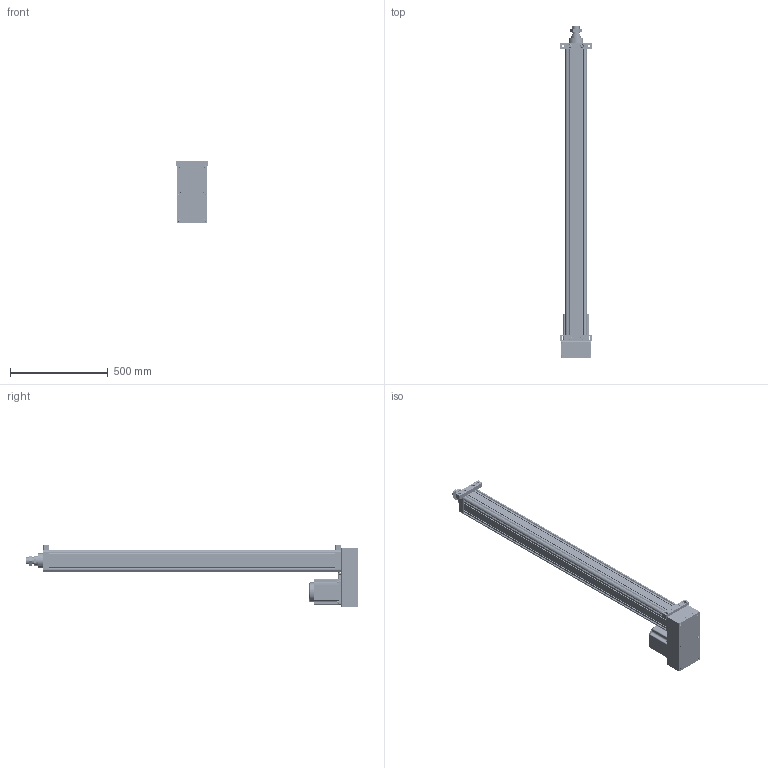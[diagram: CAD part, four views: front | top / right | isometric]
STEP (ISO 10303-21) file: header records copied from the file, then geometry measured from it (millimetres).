
FILE_DESCRIPTION((''),'2;1');
FILE_NAME('HE100-D-P_ASM','2020-05-06T',('ASUS20200'),(''),'CREO PARAMETRIC BY PTC INC, 2014190','CREO PARAMETRIC BY PTC INC, 2014190','');
FILE_SCHEMA(('CONFIG_CONTROL_DESIGN'));
Products named in the file (46): HE100-D-P-001-X1; HE100-D-P-002-X1; HE100-D-P-003-X1; 30305J; SFNHR03205B1-001-X1; SFNHR03205B1-002-X1; SFNHR03205B1-ST_ASM; HE100-D-P-004-X1; HE100-D-P-006-X1; HE100-D-P-007-X2; HE100-D-P-007-X1-2; M3X8-PB; HE100-D-P-HST_ASM; HE100-D-P-005-X1; TD-8; M8X30; LGLM-M10-25; K-M25X1-5P-36; JX6X6X30; JDB506030; HE80-D-P-008-X1; SLM-01; YZ-M6X1; HE100-GT2535-17; HE100-100-D-P-X1_ASM; HE100-P-010-X1-130N; 130ST-M10010; HE100-P-S8M300-32-20K6; HE100-P-012-X1; M10X25; HE100-P-009-X1-130N; HE100-P-013-X1-130N; M8X35; M8X75; LM-M8-7-5; HE100-P-S8M300-32-40; HE100-P-S8M-576-30; M10X1-25-40; LM-M10-30; LM-M10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
Assembly tree (91 placements, depth 4):
  HE100-D-P_ASM
    HE100-100-D-P-X1_ASM
      HE100-D-P-001-X1
      HE100-D-P-002-X1
      HE100-D-P-003-X1
      30305J  x2
      SFNHR03205B1-ST_ASM
        SFNHR03205B1-001-X1
        SFNHR03205B1-002-X1
      HE100-D-P-HST_ASM
        HE100-D-P-004-X1
        HE100-D-P-006-X1
        HE100-D-P-007-X2
        HE100-D-P-007-X1-2
        M3X8-PB  x5
      HE100-D-P-005-X1
      TD-8  x6
      M8X30  x6
      LGLM-M10-25  x8
      K-M25X1-5P-36
      JX6X6X30
      JDB506030
      HE80-D-P-008-X1
      SLM-01
      YZ-M6X1
      HE100-GT2535-17
    HE100-P-010-X1-130N
    130ST-M10010
    HE100-P-S8M300-32-20K6
    HE100-P-012-X1
    M10X25  x4
    HE100-P-009-X1-130N
    HE100-P-013-X1-130N
    TD-8  x4
    M8X35  x4
    M8X75  x6
    LM-M8-7-5  x4
    HE100-P-S8M300-32-40
    HE100-P-S8M-576-30
    M10X1-25-40
    LM-M10-30
    LM-M10
    Z21-22-40
    HE100-D-P-015-X1
    HE100-D-P-016-X1
    TD-10  x4
    M10X35  x4
Bounding box: 165 x 1694 x 315 mm (x, y, z)
Volume: 12082615.5 mm3; surface area: 3251100.7 mm2
Topology: 88 solids, 148 shells, 4681 faces, 11384 edges, 7026 vertices
Faces by surface type: cylinder 1731, plane 1654, cone 1023, torus 196, sphere 50, bspline 27
Entity records: 119951 total; most frequent: CARTESIAN_POINT 29039, DIRECTION 20451, ORIENTED_EDGE 17850, EDGE_CURVE 9042, AXIS2_PLACEMENT_3D 8164, VERTEX_POINT 5611, CIRCLE 4292, VECTOR 4123
